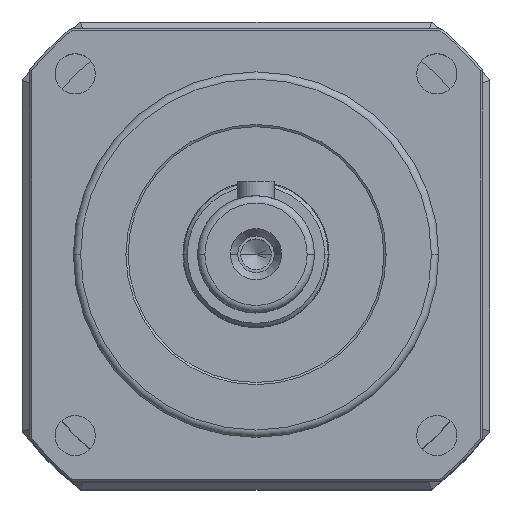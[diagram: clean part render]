
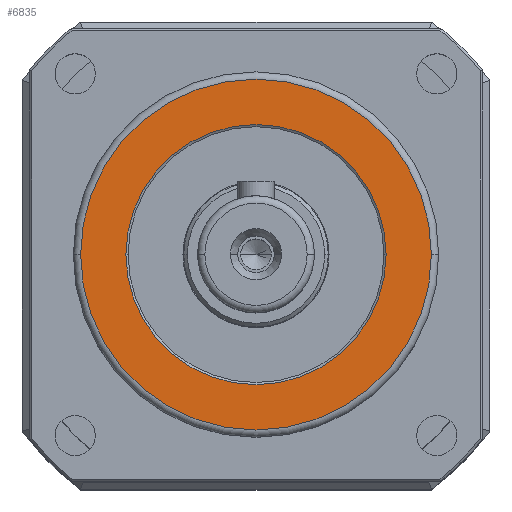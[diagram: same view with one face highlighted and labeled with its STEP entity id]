
A CAD part, top view. The second image highlights one B-rep face of the part: STEP entity #6835.
In plain terms, the highlighted planar face has unit normal (0, 0, 1).
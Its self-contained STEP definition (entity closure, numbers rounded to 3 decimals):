
#756 = CIRCLE ( 'NONE', #759, 24. ) ;
#759 = AXIS2_PLACEMENT_3D ( 'NONE', #17119, #17120, #17121 ) ;
#1576 = CARTESIAN_POINT ( 'NONE',  ( 0., 0., 7. ) ) ;
#1577 = DIRECTION ( 'NONE',  ( 0., 0., -1. ) ) ;
#1578 = DIRECTION ( 'NONE',  ( 1., 0., 0. ) ) ;
#1579 = CARTESIAN_POINT ( 'NONE',  ( 0., 0., 7. ) ) ;
#1580 = DIRECTION ( 'NONE',  ( 0., 0., 1. ) ) ;
#1581 = DIRECTION ( 'NONE',  ( 1., 0., 0. ) ) ;
#1694 = CIRCLE ( 'NONE', #1722, 24. ) ;
#1713 = CIRCLE ( 'NONE', #1721, 17.8 ) ;
#1721 = AXIS2_PLACEMENT_3D ( 'NONE', #1576, #1577, #1578 ) ;
#1722 = AXIS2_PLACEMENT_3D ( 'NONE', #1579, #1580, #1581 ) ;
#2945 = EDGE_CURVE ( 'NONE', #13377, #13379, #3950, .T. ) ;
#3312 = CARTESIAN_POINT ( 'NONE',  ( 24., 0., 7. ) ) ;
#3313 = CARTESIAN_POINT ( 'NONE',  ( -24., 0., 7. ) ) ;
#3316 = CARTESIAN_POINT ( 'NONE',  ( 17.8, 0., 7. ) ) ;
#3317 = CARTESIAN_POINT ( 'NONE',  ( -17.8, 0., 7. ) ) ;
#3867 = CARTESIAN_POINT ( 'NONE',  ( 0., 0., 7. ) ) ;
#3868 = DIRECTION ( 'NONE',  ( 0., 0., -1. ) ) ;
#3869 = DIRECTION ( 'NONE',  ( 1., 0., 0. ) ) ;
#3950 = CIRCLE ( 'NONE', #3952, 17.8 ) ;
#3952 = AXIS2_PLACEMENT_3D ( 'NONE', #3867, #3868, #3869 ) ;
#5005 = EDGE_LOOP ( 'NONE', ( #7103, #7102 ) ) ;
#5514 = FACE_BOUND ( 'NONE', #8338, .T. ) ;
#5515 = FACE_OUTER_BOUND ( 'NONE', #5005, .T. ) ;
#6350 = AXIS2_PLACEMENT_3D ( 'NONE', #12680, #12681, #12682 ) ;
#6835 = ADVANCED_FACE ( 'NONE', ( #5514, #5515 ), #12679, .T. ) ;
#7099 = ORIENTED_EDGE ( 'NONE', *, *, #2945, .T. ) ;
#7101 = ORIENTED_EDGE ( 'NONE', *, *, #15967, .T. ) ;
#7102 = ORIENTED_EDGE ( 'NONE', *, *, #15968, .T. ) ;
#7103 = ORIENTED_EDGE ( 'NONE', *, *, #18729, .T. ) ;
#8338 = EDGE_LOOP ( 'NONE', ( #7099, #7101 ) ) ;
#12679 = PLANE ( 'NONE',  #6350 ) ;
#12680 = CARTESIAN_POINT ( 'NONE',  ( 0., 0., 7. ) ) ;
#12681 = DIRECTION ( 'NONE',  ( 0., 0., 1. ) ) ;
#12682 = DIRECTION ( 'NONE',  ( 1., 0., 0. ) ) ;
#13370 = VERTEX_POINT ( 'NONE', #3312 ) ;
#13371 = VERTEX_POINT ( 'NONE', #3313 ) ;
#13377 = VERTEX_POINT ( 'NONE', #3316 ) ;
#13379 = VERTEX_POINT ( 'NONE', #3317 ) ;
#15967 = EDGE_CURVE ( 'NONE', #13379, #13377, #1713, .T. ) ;
#15968 = EDGE_CURVE ( 'NONE', #13371, #13370, #1694, .T. ) ;
#17119 = CARTESIAN_POINT ( 'NONE',  ( 0., 0., 7. ) ) ;
#17120 = DIRECTION ( 'NONE',  ( 0., 0., 1. ) ) ;
#17121 = DIRECTION ( 'NONE',  ( 1., 0., 0. ) ) ;
#18729 = EDGE_CURVE ( 'NONE', #13370, #13371, #756, .T. ) ;
